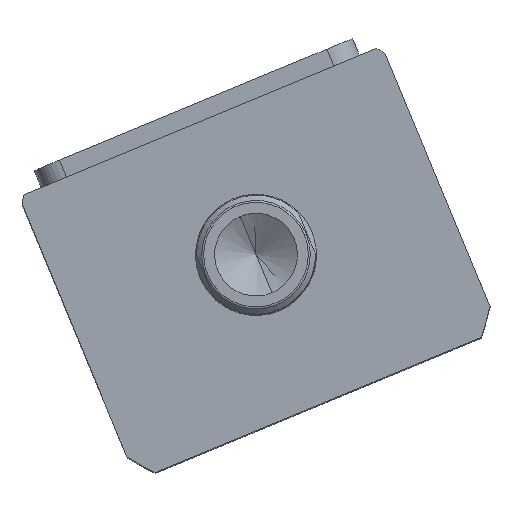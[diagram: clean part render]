
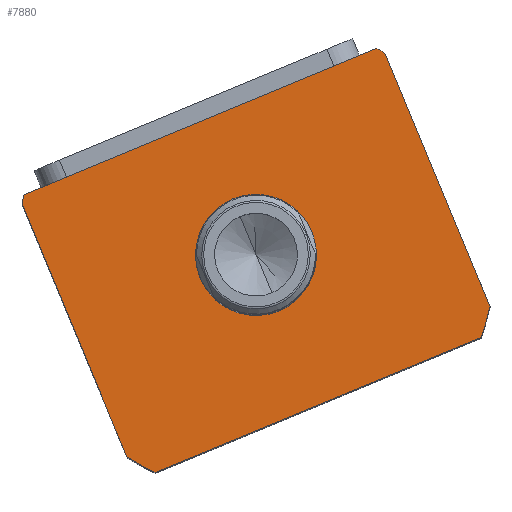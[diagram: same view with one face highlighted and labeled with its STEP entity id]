
A CAD part, top view. The second image highlights one B-rep face of the part: STEP entity #7880.
In plain terms, the highlighted planar face has unit normal (0, 0, 1) as drawn and (0, 0, -1) by its records, which use the part's own axes.
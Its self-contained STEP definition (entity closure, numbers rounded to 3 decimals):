
#135 = AXIS2_PLACEMENT_3D ( 'NONE', #2938, #13173, #4409 ) ;
#238 = FACE_OUTER_BOUND ( 'NONE', #11588, .T. ) ;
#412 = EDGE_CURVE ( 'NONE', #417, #6407, #5424, .T. ) ;
#417 = VERTEX_POINT ( 'NONE', #9159 ) ;
#550 = CIRCLE ( 'NONE', #3301, 69.5 ) ;
#716 = DIRECTION ( 'NONE',  ( 1., 0., 0. ) ) ;
#848 = CARTESIAN_POINT ( 'NONE',  ( -57., -37.265, 0. ) ) ;
#1058 = PLANE ( 'NONE',  #5649 ) ;
#1288 = CARTESIAN_POINT ( 'NONE',  ( -57., 44.5, 0. ) ) ;
#1466 = ORIENTED_EDGE ( 'NONE', *, *, #8239, .F. ) ;
#1673 = ORIENTED_EDGE ( 'NONE', *, *, #12897, .T. ) ;
#1908 = DIRECTION ( 'NONE',  ( 0., -1., 0. ) ) ;
#2588 = ORIENTED_EDGE ( 'NONE', *, *, #7721, .F. ) ;
#2938 = CARTESIAN_POINT ( 'NONE',  ( 0., 2.5, 0. ) ) ;
#3301 = AXIS2_PLACEMENT_3D ( 'NONE', #13079, #4309, #14554 ) ;
#3707 = DIRECTION ( 'NONE',  ( -1., 0., 0. ) ) ;
#3840 = CIRCLE ( 'NONE', #13866, 17.5 ) ;
#4309 = DIRECTION ( 'NONE',  ( 0., 0., 1. ) ) ;
#4406 = ORIENTED_EDGE ( 'NONE', *, *, #412, .F. ) ;
#4409 = DIRECTION ( 'NONE',  ( 1., 0., 0. ) ) ;
#4557 = VERTEX_POINT ( 'NONE', #9546 ) ;
#4854 = VERTEX_POINT ( 'NONE', #18915 ) ;
#5168 = CARTESIAN_POINT ( 'NONE',  ( -57., -44.5, 0. ) ) ;
#5185 = CARTESIAN_POINT ( 'NONE',  ( 0., 2.5, 0. ) ) ;
#5424 = LINE ( 'NONE', #1288, #9767 ) ;
#5479 = FACE_BOUND ( 'NONE', #12812, .T. ) ;
#5649 = AXIS2_PLACEMENT_3D ( 'NONE', #12724, #17169, #8356 ) ;
#5676 = VERTEX_POINT ( 'NONE', #13611 ) ;
#5794 = VERTEX_POINT ( 'NONE', #13807 ) ;
#6138 = CARTESIAN_POINT ( 'NONE',  ( 0., 2.5, 0. ) ) ;
#6407 = VERTEX_POINT ( 'NONE', #848 ) ;
#6576 = CARTESIAN_POINT ( 'NONE',  ( 0., 2.5, 0. ) ) ;
#6673 = DIRECTION ( 'NONE',  ( 1., 0., 0. ) ) ;
#7077 = CIRCLE ( 'NONE', #15497, 69.5 ) ;
#7380 = EDGE_CURVE ( 'NONE', #10709, #7982, #15599, .T. ) ;
#7390 = ORIENTED_EDGE ( 'NONE', *, *, #18818, .F. ) ;
#7602 = DIRECTION ( 'NONE',  ( 1., 0., 0. ) ) ;
#7721 = EDGE_CURVE ( 'NONE', #5794, #10709, #15115, .T. ) ;
#7745 = VECTOR ( 'NONE', #3707, 1000. ) ;
#7880 = ADVANCED_FACE ( 'NONE', ( #5479, #238 ), #1058, .F. ) ;
#7939 = AXIS2_PLACEMENT_3D ( 'NONE', #6576, #16833, #8051 ) ;
#7982 = VERTEX_POINT ( 'NONE', #10202 ) ;
#8051 = DIRECTION ( 'NONE',  ( 1., 0., 0. ) ) ;
#8239 = EDGE_CURVE ( 'NONE', #4854, #417, #7077, .T. ) ;
#8340 = EDGE_CURVE ( 'NONE', #7982, #9351, #16471, .T. ) ;
#8356 = DIRECTION ( 'NONE',  ( 1., 0., 0. ) ) ;
#8408 = EDGE_CURVE ( 'NONE', #9587, #4854, #11649, .T. ) ;
#8652 = VECTOR ( 'NONE', #13875, 1000. ) ;
#9159 = CARTESIAN_POINT ( 'NONE',  ( -57., 42.265, 0. ) ) ;
#9351 = VERTEX_POINT ( 'NONE', #15578 ) ;
#9436 = DIRECTION ( 'NONE',  ( 0., 0., 1. ) ) ;
#9546 = CARTESIAN_POINT ( 'NONE',  ( -17.5, 2.5, 0. ) ) ;
#9587 = VERTEX_POINT ( 'NONE', #18659 ) ;
#9668 = ORIENTED_EDGE ( 'NONE', *, *, #8408, .F. ) ;
#9767 = VECTOR ( 'NONE', #1908, 1000. ) ;
#10202 = CARTESIAN_POINT ( 'NONE',  ( 57., -37.265, 0. ) ) ;
#10709 = VERTEX_POINT ( 'NONE', #11825 ) ;
#10982 = CARTESIAN_POINT ( 'NONE',  ( -57., 44.5, 0. ) ) ;
#11588 = EDGE_LOOP ( 'NONE', ( #18166, #15165, #12164, #2588, #7390, #4406, #1466, #9668 ) ) ;
#11649 = LINE ( 'NONE', #10982, #7745 ) ;
#11757 = CIRCLE ( 'NONE', #7939, 17.5 ) ;
#11825 = CARTESIAN_POINT ( 'NONE',  ( 51.198, -44.5, 0. ) ) ;
#11928 = ORIENTED_EDGE ( 'NONE', *, *, #17283, .T. ) ;
#12164 = ORIENTED_EDGE ( 'NONE', *, *, #7380, .F. ) ;
#12259 = CIRCLE ( 'NONE', #135, 69.5 ) ;
#12392 = CARTESIAN_POINT ( 'NONE',  ( 57., 44.5, 0. ) ) ;
#12724 = CARTESIAN_POINT ( 'NONE',  ( 0., 0., 0. ) ) ;
#12812 = EDGE_LOOP ( 'NONE', ( #11928, #1673 ) ) ;
#12897 = EDGE_CURVE ( 'NONE', #4557, #5676, #3840, .T. ) ;
#13079 = CARTESIAN_POINT ( 'NONE',  ( 0., 2.5, 0. ) ) ;
#13173 = DIRECTION ( 'NONE',  ( 0., 0., 1. ) ) ;
#13611 = CARTESIAN_POINT ( 'NONE',  ( 17.5, 2.5, 0. ) ) ;
#13729 = VECTOR ( 'NONE', #15447, 1000. ) ;
#13807 = CARTESIAN_POINT ( 'NONE',  ( -51.198, -44.5, 0. ) ) ;
#13866 = AXIS2_PLACEMENT_3D ( 'NONE', #5185, #15462, #6673 ) ;
#13875 = DIRECTION ( 'NONE',  ( 0., 1., 0. ) ) ;
#14554 = DIRECTION ( 'NONE',  ( 1., 0., 0. ) ) ;
#14984 = EDGE_CURVE ( 'NONE', #9351, #9587, #12259, .T. ) ;
#15115 = LINE ( 'NONE', #5168, #13729 ) ;
#15165 = ORIENTED_EDGE ( 'NONE', *, *, #8340, .F. ) ;
#15447 = DIRECTION ( 'NONE',  ( 1., 0., 0. ) ) ;
#15462 = DIRECTION ( 'NONE',  ( 0., 0., 1. ) ) ;
#15497 = AXIS2_PLACEMENT_3D ( 'NONE', #18258, #9436, #716 ) ;
#15578 = CARTESIAN_POINT ( 'NONE',  ( 57., 42.265, 0. ) ) ;
#15599 = CIRCLE ( 'NONE', #18206, 69.5 ) ;
#16396 = DIRECTION ( 'NONE',  ( 0., 0., 1. ) ) ;
#16471 = LINE ( 'NONE', #12392, #8652 ) ;
#16833 = DIRECTION ( 'NONE',  ( 0., 0., 1. ) ) ;
#17169 = DIRECTION ( 'NONE',  ( 0., 0., 1. ) ) ;
#17283 = EDGE_CURVE ( 'NONE', #5676, #4557, #11757, .T. ) ;
#18166 = ORIENTED_EDGE ( 'NONE', *, *, #14984, .F. ) ;
#18206 = AXIS2_PLACEMENT_3D ( 'NONE', #6138, #16396, #7602 ) ;
#18258 = CARTESIAN_POINT ( 'NONE',  ( 0., 2.5, 0. ) ) ;
#18659 = CARTESIAN_POINT ( 'NONE',  ( 55.374, 44.5, 0. ) ) ;
#18818 = EDGE_CURVE ( 'NONE', #6407, #5794, #550, .T. ) ;
#18915 = CARTESIAN_POINT ( 'NONE',  ( -55.374, 44.5, 0. ) ) ;
